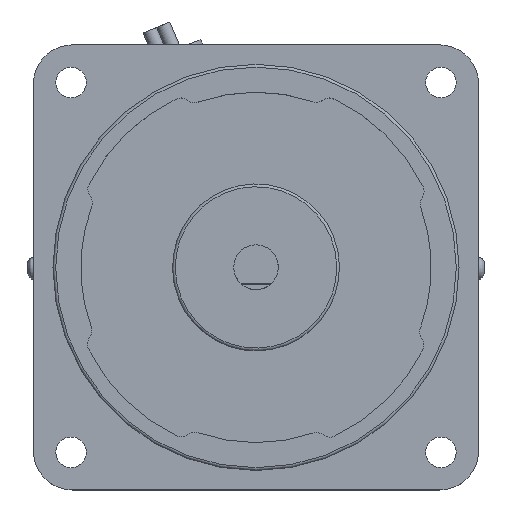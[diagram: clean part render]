
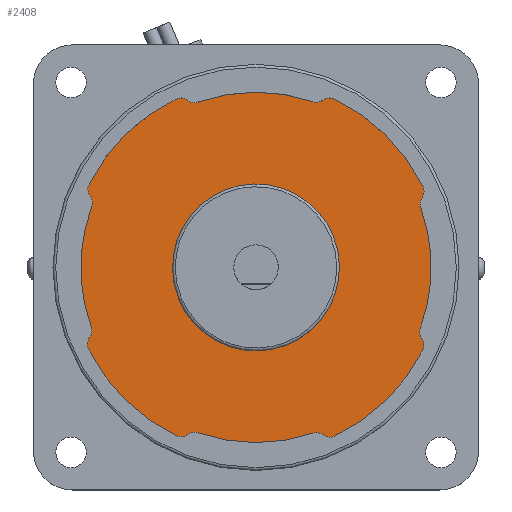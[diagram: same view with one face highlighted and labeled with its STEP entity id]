
A CAD part, top view. The second image highlights one B-rep face of the part: STEP entity #2408.
In plain terms, the highlighted planar face has unit normal (0, 0, 1).
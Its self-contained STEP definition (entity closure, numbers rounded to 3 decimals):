
#1449=CARTESIAN_POINT('',(5.498,-13.956,2.0));
#1450=VERTEX_POINT('',#1449);
#1451=CARTESIAN_POINT('',(0.0,0.0,2.));
#1452=DIRECTION('',(0.0,0.0,1.0));
#1453=DIRECTION('',(1.0,0.0,0.0));
#1454=AXIS2_PLACEMENT_3D('',#1451,#1452,#1453);
#1455=CIRCLE('',#1454,15.0);
#1456=EDGE_CURVE('',#1450,#1450,#1455,.T.);
#1764=CARTESIAN_POINT('',(-30.013,14.882,2.));
#1765=VERTEX_POINT('',#1764);
#1766=CARTESIAN_POINT('',(-29.824,12.797,2.));
#1767=VERTEX_POINT('',#1766);
#1768=CARTESIAN_POINT('',(-28.221,13.993,2.));
#1769=DIRECTION('',(0.0,0.0,1.0));
#1770=DIRECTION('',(0.896,-0.444,0.0));
#1771=AXIS2_PLACEMENT_3D('',#1768,#1769,#1770);
#1772=CIRCLE('',#1771,2.);
#1773=EDGE_CURVE('',#1765,#1767,#1772,.T.);
#1796=CARTESIAN_POINT('',(-29.551,10.908,2.));
#1797=VERTEX_POINT('',#1796);
#1798=CARTESIAN_POINT('',(-31.427,11.601,2.));
#1799=DIRECTION('',(0.0,0.0,-1.0));
#1800=DIRECTION('',(0.938,-0.346,0.0));
#1801=AXIS2_PLACEMENT_3D('',#1798,#1799,#1800);
#1802=CIRCLE('',#1801,2.0);
#1803=EDGE_CURVE('',#1767,#1797,#1802,.T.);
#1821=CARTESIAN_POINT('',(-29.624,-10.708,2.));
#1822=VERTEX_POINT('',#1821);
#1823=CARTESIAN_POINT('',(0.0,0.0,2.));
#1824=DIRECTION('',(0.0,0.0,1.0));
#1825=DIRECTION('',(0.938,-0.346,0.0));
#1826=AXIS2_PLACEMENT_3D('',#1823,#1824,#1825);
#1827=CIRCLE('',#1826,31.5);
#1828=EDGE_CURVE('',#1797,#1822,#1827,.T.);
#1846=CARTESIAN_POINT('',(-29.902,-12.584,2.));
#1847=VERTEX_POINT('',#1846);
#1848=CARTESIAN_POINT('',(-31.505,-11.388,2.));
#1849=DIRECTION('',(0.0,0.0,-1.0));
#1850=DIRECTION('',(0.801,-0.598,0.0));
#1851=AXIS2_PLACEMENT_3D('',#1848,#1849,#1850);
#1852=CIRCLE('',#1851,2.0);
#1853=EDGE_CURVE('',#1822,#1847,#1852,.T.);
#1871=CARTESIAN_POINT('',(-30.097,-14.656,2.));
#1872=VERTEX_POINT('',#1871);
#1873=CARTESIAN_POINT('',(-28.299,-13.78,2.));
#1874=DIRECTION('',(0.0,0.0,1.0));
#1875=DIRECTION('',(0.801,-0.598,0.0));
#1876=AXIS2_PLACEMENT_3D('',#1873,#1874,#1875);
#1877=CIRCLE('',#1876,2.);
#1878=EDGE_CURVE('',#1847,#1872,#1877,.T.);
#1896=CARTESIAN_POINT('',(-14.331,-30.253,2.));
#1897=VERTEX_POINT('',#1896);
#1898=CARTESIAN_POINT('',(0.0,0.0,2.));
#1899=DIRECTION('',(0.0,0.0,1.0));
#1900=DIRECTION('',(0.899,0.438,0.0));
#1901=AXIS2_PLACEMENT_3D('',#1898,#1899,#1900);
#1902=CIRCLE('',#1901,33.476);
#1903=EDGE_CURVE('',#1872,#1897,#1902,.T.);
#1921=CARTESIAN_POINT('',(-12.262,-30.036,2.));
#1922=VERTEX_POINT('',#1921);
#1923=CARTESIAN_POINT('',(-13.475,-28.446,2.));
#1924=DIRECTION('',(0.0,0.0,1.0));
#1925=DIRECTION('',(0.428,0.904,0.0));
#1926=AXIS2_PLACEMENT_3D('',#1923,#1924,#1925);
#1927=CIRCLE('',#1926,2.0);
#1928=EDGE_CURVE('',#1897,#1922,#1927,.T.);
#1946=CARTESIAN_POINT('',(-10.389,-29.738,2.));
#1947=VERTEX_POINT('',#1946);
#1948=CARTESIAN_POINT('',(-11.048,-31.626,2.));
#1949=DIRECTION('',(0.0,0.0,-1.0));
#1950=DIRECTION('',(0.33,0.944,0.0));
#1951=AXIS2_PLACEMENT_3D('',#1948,#1949,#1950);
#1952=CIRCLE('',#1951,2.);
#1953=EDGE_CURVE('',#1922,#1947,#1952,.T.);
#1971=CARTESIAN_POINT('',(10.189,-29.807,2.));
#1972=VERTEX_POINT('',#1971);
#1973=CARTESIAN_POINT('',(0.0,0.0,2.));
#1974=DIRECTION('',(0.0,0.0,1.0));
#1975=DIRECTION('',(0.33,0.944,0.0));
#1976=AXIS2_PLACEMENT_3D('',#1973,#1974,#1975);
#1977=CIRCLE('',#1976,31.5);
#1978=EDGE_CURVE('',#1947,#1972,#1977,.T.);
#1996=CARTESIAN_POINT('',(12.049,-30.109,2.));
#1997=VERTEX_POINT('',#1996);
#1998=CARTESIAN_POINT('',(10.836,-31.699,2.));
#1999=DIRECTION('',(0.0,0.0,-1.0));
#2000=DIRECTION('',(0.607,0.795,0.0));
#2001=AXIS2_PLACEMENT_3D('',#1998,#1999,#2000);
#2002=CIRCLE('',#2001,2.0);
#2003=EDGE_CURVE('',#1972,#1997,#2002,.T.);
#2021=CARTESIAN_POINT('',(14.106,-30.332,2.));
#2022=VERTEX_POINT('',#2021);
#2023=CARTESIAN_POINT('',(13.263,-28.519,2.));
#2024=DIRECTION('',(0.0,0.0,1.0));
#2025=DIRECTION('',(0.607,0.795,0.0));
#2026=AXIS2_PLACEMENT_3D('',#2023,#2024,#2025);
#2027=CIRCLE('',#2026,2.);
#2028=EDGE_CURVE('',#1997,#2022,#2027,.T.);
#2046=CARTESIAN_POINT('',(29.984,-14.832,2.));
#2047=VERTEX_POINT('',#2046);
#2048=CARTESIAN_POINT('',(0.0,0.0,2.));
#2049=DIRECTION('',(0.0,0.0,1.0));
#2050=DIRECTION('',(-0.422,0.907,0.0));
#2051=AXIS2_PLACEMENT_3D('',#2048,#2049,#2050);
#2052=CIRCLE('',#2051,33.452);
#2053=EDGE_CURVE('',#2022,#2047,#2052,.T.);
#2071=CARTESIAN_POINT('',(29.81,-12.771,2.));
#2072=VERTEX_POINT('',#2071);
#2073=CARTESIAN_POINT('',(28.191,-13.945,2.));
#2074=DIRECTION('',(0.0,0.0,1.0));
#2075=DIRECTION('',(-0.896,0.443,0.0));
#2076=AXIS2_PLACEMENT_3D('',#2073,#2074,#2075);
#2077=CIRCLE('',#2076,2.);
#2078=EDGE_CURVE('',#2047,#2072,#2077,.T.);
#2096=CARTESIAN_POINT('',(29.553,-10.904,2.));
#2097=VERTEX_POINT('',#2096);
#2098=CARTESIAN_POINT('',(31.429,-11.596,2.));
#2099=DIRECTION('',(0.0,0.0,-1.0));
#2100=DIRECTION('',(-0.938,0.346,0.0));
#2101=AXIS2_PLACEMENT_3D('',#2098,#2099,#2100);
#2102=CIRCLE('',#2101,2.0);
#2103=EDGE_CURVE('',#2072,#2097,#2102,.T.);
#2121=CARTESIAN_POINT('',(29.624,10.709,2.));
#2122=VERTEX_POINT('',#2121);
#2123=CARTESIAN_POINT('',(0.0,0.0,2.));
#2124=DIRECTION('',(0.0,0.0,1.0));
#2125=DIRECTION('',(-0.938,0.346,0.0));
#2126=AXIS2_PLACEMENT_3D('',#2123,#2124,#2125);
#2127=CIRCLE('',#2126,31.5);
#2128=EDGE_CURVE('',#2097,#2122,#2127,.T.);
#2146=CARTESIAN_POINT('',(29.862,12.531,2.));
#2147=VERTEX_POINT('',#2146);
#2148=CARTESIAN_POINT('',(31.505,11.389,2.));
#2149=DIRECTION('',(0.0,0.0,-1.0));
#2150=DIRECTION('',(-0.821,0.571,0.0));
#2151=AXIS2_PLACEMENT_3D('',#2148,#2149,#2150);
#2152=CIRCLE('',#2151,2.);
#2153=EDGE_CURVE('',#2122,#2147,#2152,.T.);
#2171=CARTESIAN_POINT('',(30.02,14.544,2.));
#2172=VERTEX_POINT('',#2171);
#2173=CARTESIAN_POINT('',(28.22,13.672,2.));
#2174=DIRECTION('',(0.0,0.0,1.0));
#2175=DIRECTION('',(-0.821,0.571,0.0));
#2176=AXIS2_PLACEMENT_3D('',#2173,#2174,#2175);
#2177=CIRCLE('',#2176,2.);
#2178=EDGE_CURVE('',#2147,#2172,#2177,.T.);
#2196=CARTESIAN_POINT('',(14.017,30.27,2.));
#2197=VERTEX_POINT('',#2196);
#2198=CARTESIAN_POINT('',(0.0,0.0,2.));
#2199=DIRECTION('',(0.0,0.0,1.0));
#2200=DIRECTION('',(-0.9,-0.436,0.0));
#2201=AXIS2_PLACEMENT_3D('',#2198,#2199,#2200);
#2202=CIRCLE('',#2201,33.358);
#2203=EDGE_CURVE('',#2172,#2197,#2202,.T.);
#2221=CARTESIAN_POINT('',(12.006,30.077,2.));
#2222=VERTEX_POINT('',#2221);
#2223=CARTESIAN_POINT('',(13.176,28.455,2.));
#2224=DIRECTION('',(0.0,0.0,1.0));
#2225=DIRECTION('',(-0.42,-0.907,0.0));
#2226=AXIS2_PLACEMENT_3D('',#2223,#2224,#2225);
#2227=CIRCLE('',#2226,2.);
#2228=EDGE_CURVE('',#2197,#2222,#2227,.T.);
#2246=CARTESIAN_POINT('',(10.189,29.807,2.));
#2247=VERTEX_POINT('',#2246);
#2248=CARTESIAN_POINT('',(10.836,31.699,2.));
#2249=DIRECTION('',(0.0,0.0,-1.0));
#2250=DIRECTION('',(-0.323,-0.946,0.0));
#2251=AXIS2_PLACEMENT_3D('',#2248,#2249,#2250);
#2252=CIRCLE('',#2251,2.);
#2253=EDGE_CURVE('',#2222,#2247,#2252,.T.);
#2271=CARTESIAN_POINT('',(-10.398,29.734,2.));
#2272=VERTEX_POINT('',#2271);
#2273=CARTESIAN_POINT('',(0.0,0.0,2.));
#2274=DIRECTION('',(0.0,0.0,1.0));
#2275=DIRECTION('',(-0.323,-0.946,0.0));
#2276=AXIS2_PLACEMENT_3D('',#2273,#2274,#2275);
#2277=CIRCLE('',#2276,31.5);
#2278=EDGE_CURVE('',#2247,#2272,#2277,.T.);
#2296=CARTESIAN_POINT('',(-12.282,30.04,2.));
#2297=VERTEX_POINT('',#2296);
#2298=CARTESIAN_POINT('',(-11.058,31.622,2.));
#2299=DIRECTION('',(0.0,0.0,-1.0));
#2300=DIRECTION('',(-0.612,-0.791,0.0));
#2301=AXIS2_PLACEMENT_3D('',#2298,#2299,#2300);
#2302=CIRCLE('',#2301,2.);
#2303=EDGE_CURVE('',#2272,#2297,#2302,.T.);
#2321=CARTESIAN_POINT('',(-14.363,30.265,2.));
#2322=VERTEX_POINT('',#2321);
#2323=CARTESIAN_POINT('',(-13.505,28.458,2.));
#2324=DIRECTION('',(0.0,0.0,1.0));
#2325=DIRECTION('',(-0.612,-0.791,0.0));
#2326=AXIS2_PLACEMENT_3D('',#2323,#2324,#2325);
#2327=CIRCLE('',#2326,2.);
#2328=EDGE_CURVE('',#2297,#2322,#2327,.T.);
#2346=CARTESIAN_POINT('',(0.0,0.0,2.));
#2347=DIRECTION('',(0.0,0.0,1.0));
#2348=DIRECTION('',(0.429,-0.903,0.0));
#2349=AXIS2_PLACEMENT_3D('',#2346,#2347,#2348);
#2350=CIRCLE('',#2349,33.5);
#2351=EDGE_CURVE('',#2322,#1765,#2350,.T.);
#2374=CARTESIAN_POINT('',(-0.045,-0.02,2.));
#2375=DIRECTION('',(0.0,0.0,1.0));
#2376=DIRECTION('',(1.0,0.0,0.0));
#2377=AXIS2_PLACEMENT_3D('',#2374,#2375,#2376);
#2378=PLANE('',#2377);
#2379=ORIENTED_EDGE('',*,*,#2351,.T.);
#2380=ORIENTED_EDGE('',*,*,#1773,.T.);
#2381=ORIENTED_EDGE('',*,*,#1803,.T.);
#2382=ORIENTED_EDGE('',*,*,#1828,.T.);
#2383=ORIENTED_EDGE('',*,*,#1853,.T.);
#2384=ORIENTED_EDGE('',*,*,#1878,.T.);
#2385=ORIENTED_EDGE('',*,*,#1903,.T.);
#2386=ORIENTED_EDGE('',*,*,#1928,.T.);
#2387=ORIENTED_EDGE('',*,*,#1953,.T.);
#2388=ORIENTED_EDGE('',*,*,#1978,.T.);
#2389=ORIENTED_EDGE('',*,*,#2003,.T.);
#2390=ORIENTED_EDGE('',*,*,#2028,.T.);
#2391=ORIENTED_EDGE('',*,*,#2053,.T.);
#2392=ORIENTED_EDGE('',*,*,#2078,.T.);
#2393=ORIENTED_EDGE('',*,*,#2103,.T.);
#2394=ORIENTED_EDGE('',*,*,#2128,.T.);
#2395=ORIENTED_EDGE('',*,*,#2153,.T.);
#2396=ORIENTED_EDGE('',*,*,#2178,.T.);
#2397=ORIENTED_EDGE('',*,*,#2203,.T.);
#2398=ORIENTED_EDGE('',*,*,#2228,.T.);
#2399=ORIENTED_EDGE('',*,*,#2253,.T.);
#2400=ORIENTED_EDGE('',*,*,#2278,.T.);
#2401=ORIENTED_EDGE('',*,*,#2303,.T.);
#2402=ORIENTED_EDGE('',*,*,#2328,.T.);
#2403=EDGE_LOOP('',(#2379,#2380,#2381,#2382,#2383,#2384,#2385,#2386,#2387,#2388,#2389,#2390,#2391,#2392,#2393,#2394,#2395,#2396,#2397,#2398,#2399,#2400,#2401,#2402));
#2404=FACE_OUTER_BOUND('',#2403,.T.);
#2405=ORIENTED_EDGE('',*,*,#1456,.F.);
#2406=EDGE_LOOP('',(#2405));
#2407=FACE_BOUND('',#2406,.T.);
#2408=ADVANCED_FACE('',(#2404,#2407),#2378,.T.);
